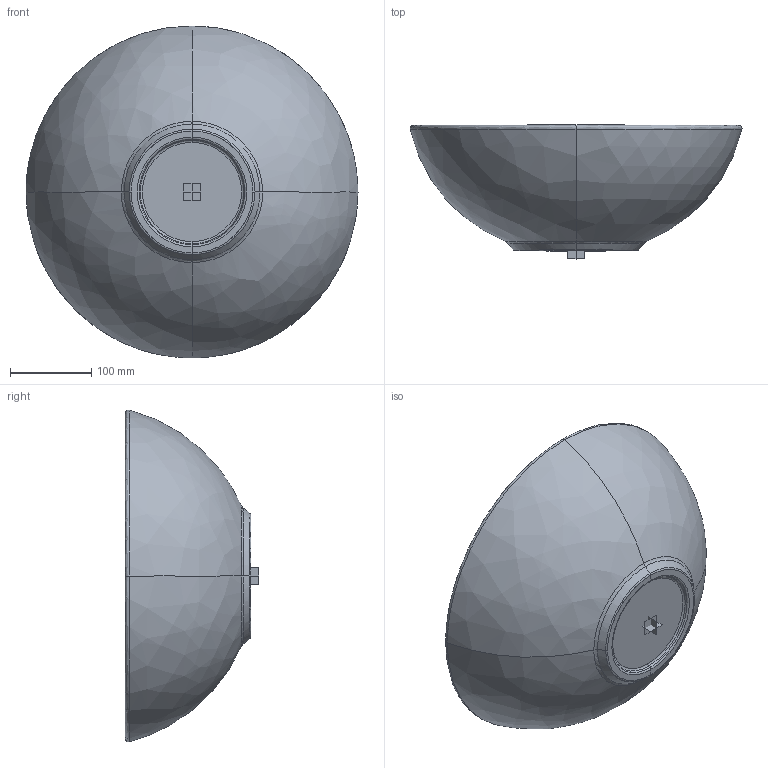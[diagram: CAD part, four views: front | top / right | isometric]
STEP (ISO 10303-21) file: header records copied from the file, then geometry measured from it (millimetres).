
FILE_DESCRIPTION((''),'2;1');
FILE_NAME('K0795_3DPL','2014-04-03T',('TotevD'),('AMERICAN STANDARD B&K'),'PRO/ENGINEER BY PARAMETRIC TECHNOLOGY CORPORATION, 2011330','PRO/ENGINEER BY PARAMETRIC TECHNOLOGY CORPORATION, 2011330','');
FILE_SCHEMA(('CONFIG_CONTROL_DESIGN'));
Length unit declared in the file: millimetre
Products named in the file (1): K0795_3DPL
Bounding box: 409.64 x 165 x 409.61 mm (x, y, z)
Volume: 6089839.7 mm3; surface area: 386275 mm2
Topology: 1 solids, 4 shells, 47 faces, 103 edges, 61 vertices
Faces by surface type: bspline 34, plane 5, revolution 4, torus 4
Entity records: 5334 total; most frequent: CARTESIAN_POINT 4485, ORIENTED_EDGE 194, EDGE_CURVE 103, DIRECTION 98, VERTEX_POINT 61, B_SPLINE_CURVE_WITH_KNOTS 59, EDGE_LOOP 47, FACE_OUTER_BOUND 47
